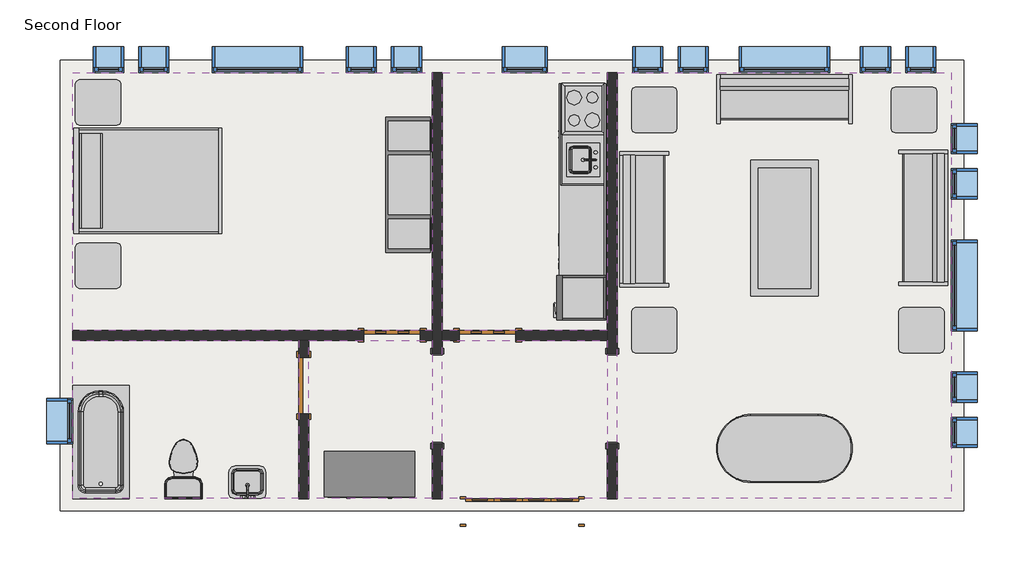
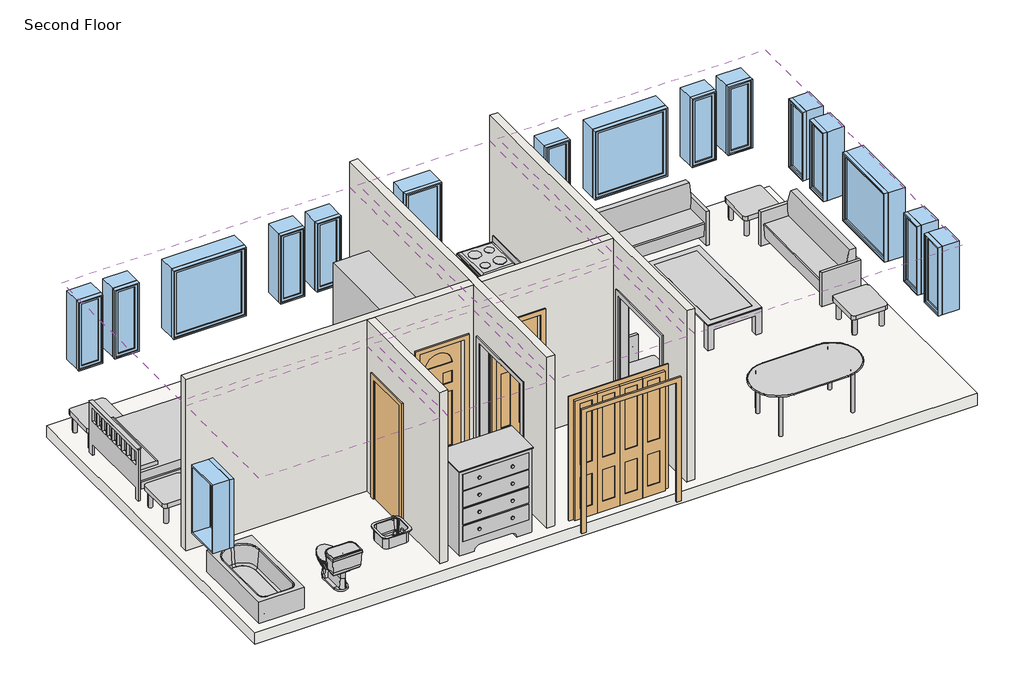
# One storey, incomplete: 17 windows, 15 furniture elements, 6 coverings, 6 proxies, 4 doors, 4 flow terminals, 4 walls, 1 slab.
"""IFC4 building model written with IfcOpenShell, lengths in millimetres."""

from ifc_helpers import new_model, si_unit, frame, origin, place, context, project, spatial, polyline, outline, extrude, faceted_brep, transform, mapped, element, save
from components import m_cook_top_4_unit2_0615_x_500mm_249f3515, m_dishwasher_610_x_610_x_875mm_54ecfc4c, m_kitchenette_medium_1372mm_e05c6bec, m_passage_opening_cased_1220_x_2134mm_87a8d9c2, m_refrigerator_600_x_660mm_a466bf94, m_bifold_4_panel_1525_x_2134mm_1ddae71f, m_single_decorative_2_0762_x_2134mm_0d0af7cb, m_single_decorative_2_0762_x_2134mm_2fe67c8e, m_single_flush_0762_x_2134mm_0d89e411, m_sink_kitchen_island_450_x_450mm_f969cf2d, m_sink_vanity_square_500_x_440mm_1e229b74, m_toilet_domestic_3d_m_toilet_domestic_3d_5cb52bd4, m_toilet_domestic_3d_m_toilet_domestic_3d_183bbd19, m_tub_rectangular_3d_m_tub_rectangular_3d_3a981ad5, m_bed_shaker_1422_x_1981mm_double_096e7f55, m_counter_top_w_sink_hole_600mm_depth_1fb56bb9, m_dresser_1220_x_1525_x_0610mm_18e1f140, m_entertainment_center_1830_x_1830_x_0610mm_f77a9b93, m_sofa_1830mm_f9e8a66b, m_table_coffee_0915_x_1830_x_0457mm_134cd960, m_table_dining_oval_0915_x_1830mm_a7cfbe21, m_table_end_cb6ea12e, m_fixed_0406_x_1220mm_57fee329, m_fixed_0406_x_1220mm_85c28f40, m_fixed_0610_x_1220mm_2c28ef1d, m_fixed_1220_x_1220mm_e08ff7af

model = new_model("IFC4")

# Units and contexts
model_context = context("Model", 3, world=origin())
ifc_project = project(units=[si_unit("LENGTHUNIT", "METRE", prefix="MILLI")], contexts=[model_context])

# Site, building, storey
site = spatial("IfcSite", under=ifc_project)
building = spatial("IfcBuilding", under=site)
storey = spatial("IfcBuildingStorey", under=building, Name="Second Floor", Elevation=3048.0)

# Proxies
placement = place(None, origin())
m_cook_top_4_unit2_0615_x_500mm_shape = m_cook_top_4_unit2_0615_x_500mm_249f3515(model_context)
element("IfcBuildingElementProxy", 1, Name="M_Cook Top-4 Unit2 : 0615 x 500mm", ObjectType="M_Cook Top-4 Unit2 : 0615 x 500mm", at=placement, inside=storey, context=model_context, shape_type="MappedRepresentation", body=[
    mapped(m_cook_top_4_unit2_0615_x_500mm_shape, transform((-8054.9916203, 1914.054661, 3048.0), x_axis=(0.0, -1.0, 0.0), y_axis=(1.0, 0.0, 0.0), z_axis=(0.0, 0.0, 1.0))),
])
m_dishwasher_610_x_610_x_875mm_shape = m_dishwasher_610_x_610_x_875mm_54ecfc4c(model_context)
element("IfcBuildingElementProxy", 2, Name="M_Dishwasher : 610 x 610 x 875mm", ObjectType="M_Dishwasher : 610 x 610 x 875mm", at=placement, inside=storey, context=model_context, shape_type="MappedRepresentation", body=[
    mapped(m_dishwasher_610_x_610_x_875mm_shape, transform((-8321.6411851, 353.5721295, 3048.0), x_axis=(0.0, -1.0, 0.0), y_axis=(1.0, 0.0, 0.0), z_axis=(0.0, 0.0, 1.0))),
])
m_kitchenette_medium_1372mm_shape = m_kitchenette_medium_1372mm_e05c6bec(model_context)
element("IfcBuildingElementProxy", 3, Name="M_Kitchenette - Medium : 1372mm", ObjectType="M_Kitchenette - Medium : 1372mm", at=placement, inside=storey, context=model_context, shape_type="MappedRepresentation", body=[
    mapped(m_kitchenette_medium_1372mm_shape, transform((-7749.9916203, 1589.7923659, 3048.0), x_axis=(0.0, -1.0, 0.0), y_axis=(1.0, 0.0, 0.0), z_axis=(0.0, 0.0, 1.0))),
])
m_passage_opening_cased_1220_x_2134mm_shape = m_passage_opening_cased_1220_x_2134mm_87a8d9c2(model_context)
element("IfcBuildingElementProxy", 4, Name="M_Passage Opening-Cased : 1220 x 2134mm", ObjectType="M_Passage Opening-Cased : 1220 x 2134mm", at=placement, inside=storey, context=model_context, shape_type="MappedRepresentation", body=[
    mapped(m_passage_opening_cased_1220_x_2134mm_shape, transform((-7665.3416203, -1982.6925047, 3048.0), x_axis=(0.0, 1.0, 0.0), y_axis=(-1.0, 0.0, 0.0), z_axis=(0.0, 0.0, 1.0))),
])
element("IfcBuildingElementProxy", 5, Name="M_Passage Opening-Cased : 1220 x 2134mm", ObjectType="M_Passage Opening-Cased : 1220 x 2134mm", at=placement, inside=storey, context=model_context, shape_type="MappedRepresentation", body=[
    mapped(m_passage_opening_cased_1220_x_2134mm_shape, transform((-10019.0916203, -1999.0698181, 3048.0), x_axis=(0.0, -1.0, 0.0), y_axis=(1.0, 0.0, 0.0), z_axis=(0.0, 0.0, 1.0))),
])
m_refrigerator_600_x_660mm_shape = m_refrigerator_600_x_660mm_a466bf94(model_context)
element("IfcBuildingElementProxy", 6, Name="M_Refrigerator : 600 x 660mm", ObjectType="M_Refrigerator : 600 x 660mm", at=placement, inside=storey, context=model_context, shape_type="MappedRepresentation", body=[
    mapped(m_refrigerator_600_x_660mm_shape, transform((-8046.2067105, -687.7464817, 3048.0), x_axis=(0.0, -1.0, 0.0), y_axis=(1.0, 0.0, 0.0), z_axis=(0.0, 0.0, 1.0))),
])

# Coverings
element("IfcCovering", 7, ObjectType="Plain", at=placement, inside=storey, context=model_context, shape_type="SweptSolid", body=[
    extrude(outline(polyline([(-14935.3416203, 2406.1188386), (-10086.8416203, 2406.1188386), (-10086.8416203, -1070.3811614), (-14935.3416203, -1070.3811614), (-14935.3416203, 2406.1188386)])), frame((0.0, 0.0, 5638.0), z_axis=(0.0, 0.0, 1.0), x_axis=(1.0, 0.0, 0.0)), (0.0, 0.0, 1.0), 57.0),
])
element("IfcCovering", 8, ObjectType="Plain", at=placement, inside=storey, context=model_context, shape_type="SweptSolid", body=[
    extrude(outline(polyline([(-9951.3416203, -1070.3811614), (-9951.3416203, 2406.1188386), (-7733.0916203, 2406.1188386), (-7733.0916203, -1070.3811614), (-9951.3416203, -1070.3811614)])), frame((0.0, 0.0, 5638.0), z_axis=(0.0, 0.0, 1.0), x_axis=(1.0, 0.0, 0.0)), (0.0, 0.0, 1.0), 57.0),
])
element("IfcCovering", 9, ObjectType="Plain", at=placement, inside=storey, context=model_context, shape_type="SweptSolid", body=[
    extrude(outline(polyline([(-7597.5916203, -3339.8811614), (-7597.5916203, 2406.1188386), (-3093.3416203, 2406.1188386), (-3093.3416203, -3339.8811614), (-7597.5916203, -3339.8811614)])), frame((0.0, 0.0, 5638.0), z_axis=(0.0, 0.0, 1.0), x_axis=(1.0, 0.0, 0.0)), (0.0, 0.0, 1.0), 57.0),
])
element("IfcCovering", 10, ObjectType="Plain", at=placement, inside=storey, context=model_context, shape_type="SweptSolid", body=[
    extrude(outline(polyline([(-7733.0916203, -3339.8811614), (-9951.3416203, -3339.8811614), (-9951.3416203, -1205.8811614), (-7733.0916203, -1205.8811614), (-7733.0916203, -3339.8811614)])), frame((0.0, 0.0, 5638.0), z_axis=(0.0, 0.0, 1.0), x_axis=(1.0, 0.0, 0.0)), (0.0, 0.0, 1.0), 57.0),
])
element("IfcCovering", 11, ObjectType="Plain", at=placement, inside=storey, context=model_context, shape_type="SweptSolid", body=[
    extrude(outline(polyline([(-11887.3416203, -1205.8811614), (-11887.3416203, -3339.8811614), (-14935.3416203, -3339.8811614), (-14935.3416203, -1205.8811614), (-11887.3416203, -1205.8811614)])), frame((0.0, 0.0, 5638.0), z_axis=(0.0, 0.0, 1.0), x_axis=(1.0, 0.0, 0.0)), (0.0, 0.0, 1.0), 57.0),
])
element("IfcCovering", 12, ObjectType="Plain", at=placement, inside=storey, context=model_context, shape_type="SweptSolid", body=[
    extrude(outline(polyline([(-10086.8416203, -3339.8811614), (-11751.8416203, -3339.8811614), (-11751.8416203, -1205.8811614), (-10086.8416203, -1205.8811614), (-10086.8416203, -3339.8811614)])), frame((0.0, 0.0, 5638.0), z_axis=(0.0, 0.0, 1.0), x_axis=(1.0, 0.0, 0.0)), (0.0, 0.0, 1.0), 57.0),
])

# Doors
m_bifold_4_panel_1525_x_2134mm_shape = m_bifold_4_panel_1525_x_2134mm_1ddae71f(model_context)
element("IfcDoor", 13, ObjectType="M_Bifold-4 Panel : 1525 x 2134mm", at=placement, inside=storey, context=model_context, shape_type="MappedRepresentation", body=[
    mapped(m_bifold_4_panel_1525_x_2134mm_shape, transform((-8876.0916203, -3514.8811614, 3048.0), x_axis=(1.0, 0.0, 0.0), y_axis=(0.0, 1.0, 0.0), z_axis=(0.0, 0.0, 1.0))),
])
m_single_decorative_2_0762_x_2134mm_shape = m_single_decorative_2_0762_x_2134mm_0d0af7cb(model_context)
element("IfcDoor", 14, ObjectType="M_Single-Decorative 2 : 0762 x 2134mm", at=placement, inside=storey, context=model_context, shape_type="MappedRepresentation", body=[
    mapped(m_single_decorative_2_0762_x_2134mm_shape, transform((-9342.3416203, -1138.1311614, 3048.0), x_axis=(-1.0, 0.0, 0.0), y_axis=(0.0, -1.0, 0.0), z_axis=(0.0, 0.0, 1.0))),
])
m_single_decorative_2_0762_x_2134mm_2_shape = m_single_decorative_2_0762_x_2134mm_2fe67c8e(model_context)
element("IfcDoor", 15, ObjectType="M_Single-Decorative 2 : 0762 x 2134mm", at=placement, inside=storey, context=model_context, shape_type="MappedRepresentation", body=[
    mapped(m_single_decorative_2_0762_x_2134mm_2_shape, transform((-10629.0916203, -1138.1311614, 3048.0), x_axis=(1.0, 0.0, 0.0), y_axis=(0.0, 1.0, 0.0), z_axis=(0.0, 0.0, 1.0))),
])
m_single_flush_0762_x_2134mm_shape = m_single_flush_0762_x_2134mm_0d89e411(model_context)
element("IfcDoor", 16, ObjectType="M_Single-Flush : 0762 x 2134mm", at=placement, inside=storey, context=model_context, shape_type="MappedRepresentation", body=[
    mapped(m_single_flush_0762_x_2134mm_shape, transform((-11819.5916203, -1815.8811614, 3048.0), x_axis=(0.0, 1.0, 0.0), y_axis=(-1.0, 0.0, 0.0), z_axis=(0.0, 0.0, 1.0))),
])

# Flow terminals
m_sink_kitchen_island_450_x_450mm_shape = m_sink_kitchen_island_450_x_450mm_f969cf2d(model_context)
element("IfcFlowTerminal", 17, ObjectType="M_Sink Kitchen-Island : 450 x 450mm", at=placement, inside=storey, context=model_context, shape_type="MappedRepresentation", body=[
    mapped(m_sink_kitchen_island_450_x_450mm_shape, transform((-8057.3370214, 1243.7439015, 3048.0), x_axis=(0.0, -1.0, 0.0), y_axis=(1.0, 0.0, 0.0), z_axis=(0.0, 0.0, 1.0))),
])
m_sink_vanity_square_500_x_440mm_shape = m_sink_vanity_square_500_x_440mm_1e229b74(model_context)
element("IfcFlowTerminal", 18, ObjectType="M_Sink Vanity-Square : 500 x 440mm", at=placement, inside=storey, context=model_context, shape_type="MappedRepresentation", body=[
    mapped(m_sink_vanity_square_500_x_440mm_shape, transform((-12563.5523798, -3158.1107603, 3048.0), x_axis=(-1.0, 0.0, 0.0), y_axis=(0.0, -1.0, 0.0), z_axis=(0.0, 0.0, 1.0))),
])
m_toilet_domestic_3d_m_toilet_domestic_3d_shape = m_toilet_domestic_3d_m_toilet_domestic_3d_5cb52bd4(model_context)
m_toilet_domestic_3d_m_toilet_domestic_3d_2_shape = m_toilet_domestic_3d_m_toilet_domestic_3d_183bbd19(model_context)
element("IfcFlowTerminal", 19, ObjectType="M_Toilet-Domestic-3D : M_Toilet-Domestic-3D", at=placement, inside=storey, context=model_context, shape_type="MappedRepresentation", body=[
    mapped(m_toilet_domestic_3d_m_toilet_domestic_3d_shape, transform((-13440.7376477, -2845.185134, 3048.0), x_axis=(-1.0000000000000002, 0.0, 0.0), y_axis=(0.0, -1.0000000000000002, 0.0), z_axis=(0.0, 0.0, 1.0))),
    mapped(m_toilet_domestic_3d_m_toilet_domestic_3d_2_shape, transform((-13440.7376477, -2845.185134, 3048.0), x_axis=(-1.0000000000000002, 0.0, 0.0), y_axis=(0.0, -1.0000000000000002, 0.0), z_axis=(0.0, 0.0, 1.0))),
])
m_tub_rectangular_3d_m_tub_rectangular_3d_shape = m_tub_rectangular_3d_m_tub_rectangular_3d_3a981ad5(model_context)
element("IfcFlowTerminal", 20, ObjectType="M_Tub-Rectangular-3D : M_Tub-Rectangular-3D", at=placement, inside=storey, context=model_context, shape_type="MappedRepresentation", body=[
    mapped(m_tub_rectangular_3d_m_tub_rectangular_3d_shape, transform((-15110.3416203, -2229.2781927, 3048.0), x_axis=(0.0, 1.0, 0.0), y_axis=(-1.0, 0.0, 0.0), z_axis=(0.0, 0.0, 1.0))),
])

# Furniture
m_bed_shaker_1422_x_1981mm_double_shape = m_bed_shaker_1422_x_1981mm_double_096e7f55(model_context)
element("IfcFurniture", 21, ObjectType="M_Bed-Shaker : 1422 x 1981mm - Double", at=placement, inside=storey, context=model_context, shape_type="MappedRepresentation", body=[
    mapped(m_bed_shaker_1422_x_1981mm_double_shape, transform((-14905.3416203, 963.9688386, 3048.0), x_axis=(0.0, 1.0000000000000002, 0.0), y_axis=(-1.0000000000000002, 0.0, 0.0), z_axis=(0.0, 0.0, 1.0))),
])
m_counter_top_w_sink_hole_600mm_depth_shape = m_counter_top_w_sink_hole_600mm_depth_1fb56bb9(model_context)
element("IfcFurniture", 22, ObjectType="M_Counter Top w Sink Hole : 600mm Depth", at=placement, inside=storey, context=model_context, shape_type="MappedRepresentation", body=[
    mapped(m_counter_top_w_sink_hole_600mm_depth_shape, transform((-7749.9916203, 1056.5923659, 3048.0), x_axis=(0.0, -1.0, 0.0), y_axis=(1.0, 0.0, 0.0), z_axis=(0.0, 0.0, 1.0))),
])
m_dresser_1220_x_1525_x_0610mm_shape = m_dresser_1220_x_1525_x_0610mm_18e1f140(model_context)
element("IfcFurniture", 23, ObjectType="M_Dresser : 1220 x 1525 x 0610mm", at=placement, inside=storey, context=model_context, shape_type="MappedRepresentation", body=[
    mapped(m_dresser_1220_x_1525_x_0610mm_shape, transform((-10667.6483605, -2647.7182073, 3048.0), x_axis=(1.0, 0.0, 0.0), y_axis=(0.0, 1.0, 0.0), z_axis=(0.0, 0.0, 1.0))),
])
m_entertainment_center_1830_x_1830_x_0610mm_shape = m_entertainment_center_1830_x_1830_x_0610mm_f77a9b93(model_context)
element("IfcFurniture", 24, ObjectType="M_Entertainment center : 1830 x 1830 x 0610mm", at=placement, inside=storey, context=model_context, shape_type="MappedRepresentation", body=[
    mapped(m_entertainment_center_1830_x_1830_x_0610mm_shape, transform((-10818.2416203, 891.1188386, 3048.0), x_axis=(0.0, 1.0, 0.0), y_axis=(-1.0, 0.0, 0.0), z_axis=(0.0, 0.0, 1.0))),
])
m_sofa_1830mm_shape = m_sofa_1830mm_f9e8a66b(model_context)
element("IfcFurniture", 25, ObjectType="M_Sofa : 1830mm", at=placement, inside=storey, context=model_context, shape_type="MappedRepresentation", body=[
    mapped(m_sofa_1830mm_shape, transform((-5413.7121121, 1899.9647403, 3048.0), x_axis=(1.0, 0.0, 0.0), y_axis=(0.0, 1.0, 0.0), z_axis=(0.0, 0.0, 1.0))),
])
element("IfcFurniture", 26, ObjectType="M_Sofa : 1830mm", at=placement, inside=storey, context=model_context, shape_type="MappedRepresentation", body=[
    mapped(m_sofa_1830mm_shape, transform((-3617.1736471, 517.2688343, 3048.0), x_axis=(0.0, -1.0, 0.0), y_axis=(1.0, 0.0, 0.0), z_axis=(0.0, 0.0, 1.0))),
])
element("IfcFurniture", 27, ObjectType="M_Sofa : 1830mm", at=placement, inside=storey, context=model_context, shape_type="MappedRepresentation", body=[
    mapped(m_sofa_1830mm_shape, transform((-7088.437522, 355.7483468, 3048.0), x_axis=(0.0, 1.0, 0.0), y_axis=(-1.0, 0.0, 0.0), z_axis=(0.0, 0.0, 1.0))),
])
m_table_coffee_0915_x_1830_x_0457mm_shape = m_table_coffee_0915_x_1830_x_0457mm_134cd960(model_context)
element("IfcFurniture", 28, ObjectType="M_Table-Coffee : 0915 x 1830 x 0457mm", at=placement, inside=storey, context=model_context, shape_type="MappedRepresentation", body=[
    mapped(m_table_coffee_0915_x_1830_x_0457mm_shape, transform((-5248.1305425, 287.8530719, 3048.0), x_axis=(0.0, 1.0, 0.0), y_axis=(-1.0, 0.0, 0.0), z_axis=(0.0, 0.0, 1.0))),
])
m_table_dining_oval_0915_x_1830mm_shape = m_table_dining_oval_0915_x_1830mm_a7cfbe21(model_context)
element("IfcFurniture", 29, ObjectType="M_Table-Dining Oval : 0915 x 1830mm", at=placement, inside=storey, context=model_context, shape_type="MappedRepresentation", body=[
    mapped(m_table_dining_oval_0915_x_1830mm_shape, transform((-4941.5219482, -2305.2828007, 3048.0), x_axis=(1.0, 0.0, 0.0), y_axis=(0.0, 1.0, 0.0), z_axis=(0.0, 0.0, 1.0))),
])
m_table_end_shape = m_table_end_cb6ea12e(model_context)
element("IfcFurniture", 30, ObjectType="M_Table-End : 0610 x 0160mm altered height", at=placement, inside=storey, context=model_context, shape_type="MappedRepresentation", body=[
    mapped(m_table_end_shape, transform((-7407.0752506, 1748.7188386, 3048.0), x_axis=(1.0, 0.0, 0.0), y_axis=(0.0, 1.0, 0.0), z_axis=(0.0, 0.0, 1.0))),
])
element("IfcFurniture", 31, ObjectType="M_Table-End : 0610 x 0160mm altered height", at=placement, inside=storey, context=model_context, shape_type="MappedRepresentation", body=[
    mapped(m_table_end_shape, transform((-3907.0752506, 1748.7188386, 3048.0), x_axis=(1.0, 0.0, 0.0), y_axis=(0.0, 1.0, 0.0), z_axis=(0.0, 0.0, 1.0))),
])
element("IfcFurniture", 32, ObjectType="M_Table-End : 0610 x 0160mm altered height", at=placement, inside=storey, context=model_context, shape_type="MappedRepresentation", body=[
    mapped(m_table_end_shape, transform((-3807.0752506, -1222.7811614, 3048.0), x_axis=(1.0, 0.0, 0.0), y_axis=(0.0, 1.0, 0.0), z_axis=(0.0, 0.0, 1.0))),
])
element("IfcFurniture", 33, ObjectType="M_Table-End : 0610 x 0160mm altered height", at=placement, inside=storey, context=model_context, shape_type="MappedRepresentation", body=[
    mapped(m_table_end_shape, transform((-7407.0752506, -1222.7811614, 3048.0), x_axis=(1.0, 0.0, 0.0), y_axis=(0.0, 1.0, 0.0), z_axis=(0.0, 0.0, 1.0))),
])
element("IfcFurniture", 34, ObjectType="M_Table-End : 0610 x 0160mm altered height", at=placement, inside=storey, context=model_context, shape_type="MappedRepresentation", body=[
    mapped(m_table_end_shape, transform((-14899.0752506, -351.2811614, 3048.0), x_axis=(1.0, 0.0, 0.0), y_axis=(0.0, 1.0, 0.0), z_axis=(0.0, 0.0, 1.0))),
])
element("IfcFurniture", 35, ObjectType="M_Table-End : 0610 x 0160mm altered height", at=placement, inside=storey, context=model_context, shape_type="MappedRepresentation", body=[
    mapped(m_table_end_shape, transform((-14899.0752506, 1848.7188386, 3048.0), x_axis=(1.0, 0.0, 0.0), y_axis=(0.0, 1.0, 0.0), z_axis=(0.0, 0.0, 1.0))),
])

# Slab
element("IfcSlab", 36, ObjectType="160mm Concrete With 50mm Metal Deck", at=placement, inside=storey, context=model_context, shape_type="SweptSolid", body=[
    extrude(outline(polyline([(-2928.3416203, 2571.1188386), (-2928.3416203, -3504.8811614), (-15100.3416203, -3504.8811614), (-15100.3416203, 2571.1188386), (-2928.3416203, 2571.1188386)])), frame((0.0, 0.0, 2838.0), z_axis=(0.0, 0.0, 1.0), x_axis=(1.0, 0.0, 0.0)), (0.0, 0.0, 1.0), 210.0),
])

# Walls
element("IfcWall", 37, ObjectType="Interior - 135mm Partition (2-hr)", at=placement, inside=storey, context=model_context, shape_type="Brep", body=[
    faceted_brep([(-7733.0916203, 2406.1188386, 3048.0), (-7733.0916203, -1070.3811614, 3048.0), (-7733.0916203, -1205.8811614, 3048.0), (-7733.0916203, -1380.8811614, 3048.0), (-7733.0916203, -1380.8811614, 5182.0), (-7733.0916203, -2600.8811614, 5182.0), (-7733.0916203, -2600.8811614, 3048.0), (-7733.0916203, -3339.8811614, 3048.0), (-7733.0916203, -3339.8811614, 6096.0), (-7733.0916203, -1205.8811614, 6096.0), (-7733.0916203, -1070.3811614, 6096.0), (-7733.0916203, 2406.1188386, 6096.0), (-7597.5916203, -1380.8811614, 5182.0), (-7597.5916203, -1380.8811614, 3048.0), (-7597.5916203, 2406.1188386, 3048.0), (-7597.5916203, 2406.1188386, 6096.0), (-7597.5916203, -3339.8811614, 6096.0), (-7597.5916203, -3339.8811614, 3048.0), (-7597.5916203, -2600.8811614, 3048.0), (-7597.5916203, -2600.8811614, 5182.0)], [[[0, 1, 2, 3, 4, 5, 6, 7, 8, 9, 10, 11]], [[12, 13, 14, 15, 16, 17, 18, 19]], [[18, 17, 7, 6]], [[14, 13, 3, 2, 1, 0]], [[11, 10, 9, 8, 16, 15]], [[6, 5, 19, 18]], [[4, 3, 13, 12]], [[5, 4, 12, 19]], [[0, 11, 15, 14]], [[8, 7, 17, 16]]]),
])
element("IfcWall", 38, ObjectType="Interior - 135mm Partition (2-hr)", at=placement, inside=storey, context=model_context, shape_type="Brep", body=[
    faceted_brep([(-10086.8416203, -2600.8811614, 5182.0), (-10086.8416203, -2600.8811614, 3048.0), (-10086.8416203, -3339.8811614, 3048.0), (-10086.8416203, -3339.8811614, 6096.0), (-10086.8416203, -1205.8811614, 6096.0), (-10086.8416203, -1070.3811614, 6096.0), (-10086.8416203, 2406.1188386, 6096.0), (-10086.8416203, 2406.1188386, 3048.0), (-10086.8416203, -1070.3811614, 3048.0), (-10086.8416203, -1205.8811614, 3048.0), (-10086.8416203, -1380.8811614, 3048.0), (-10086.8416203, -1380.8811614, 5182.0), (-9951.3416203, -3339.8811614, 3048.0), (-9951.3416203, -2600.8811614, 3048.0), (-9951.3416203, -2600.8811614, 5182.0), (-9951.3416203, -1380.8811614, 5182.0), (-9951.3416203, -1380.8811614, 3048.0), (-9951.3416203, -1205.8811614, 3048.0), (-9951.3416203, -1070.3811614, 3048.0), (-9951.3416203, 2406.1188386, 3048.0), (-9951.3416203, 2406.1188386, 6096.0), (-9951.3416203, -1070.3811614, 6096.0), (-9951.3416203, -1205.8811614, 6096.0), (-9951.3416203, -3339.8811614, 6096.0)], [[[0, 1, 2, 3, 4, 5, 6, 7, 8, 9, 10, 11]], [[12, 13, 14, 15, 16, 17, 18, 19, 20, 21, 22, 23]], [[2, 1, 13, 12]], [[10, 9, 8, 7, 19, 18, 17, 16]], [[6, 5, 4, 3, 23, 22, 21, 20]], [[16, 15, 11, 10]], [[14, 13, 1, 0]], [[15, 14, 0, 11]], [[7, 6, 20, 19]], [[3, 2, 12, 23]]]),
])
element("IfcWall", 39, ObjectType="Interior - 135mm Partition (2-hr)", at=placement, inside=storey, context=model_context, shape_type="Brep", body=[
    faceted_brep([(-7733.0916203, -1205.8811614, 3048.0), (-7733.0916203, -1205.8811614, 6096.0), (-9951.3416203, -1205.8811614, 6096.0), (-9951.3416203, -1205.8811614, 3048.0), (-9723.3416203, -1205.8811614, 3048.0), (-9723.3416203, -1205.8811614, 5182.0), (-8961.3416203, -1205.8811614, 5182.0), (-8961.3416203, -1205.8811614, 3048.0), (-7733.0916203, -1070.3811614, 6096.0), (-7733.0916203, -1070.3811614, 3048.0), (-8961.3416203, -1070.3811614, 3048.0), (-8961.3416203, -1070.3811614, 5182.0), (-9723.3416203, -1070.3811614, 5182.0), (-9723.3416203, -1070.3811614, 3048.0), (-9951.3416203, -1070.3811614, 3048.0), (-9951.3416203, -1070.3811614, 6096.0)], [[[0, 1, 2, 3, 4, 5, 6, 7]], [[8, 9, 10, 11, 12, 13, 14, 15]], [[9, 0, 7, 10]], [[13, 4, 3, 14]], [[1, 8, 15, 2]], [[1, 0, 9, 8]], [[3, 2, 15, 14]], [[5, 4, 13, 12]], [[6, 5, 12, 11]], [[7, 6, 11, 10]]]),
    faceted_brep([(-10248.0916203, -1205.8811614, 5182.0), (-10248.0916203, -1205.8811614, 3048.0), (-10086.8416203, -1205.8811614, 3048.0), (-10086.8416203, -1205.8811614, 6096.0), (-11751.8416203, -1205.8811614, 6096.0), (-11887.3416203, -1205.8811614, 6096.0), (-14935.3416203, -1205.8811614, 6096.0), (-14935.3416203, -1205.8811614, 3048.0), (-11887.3416203, -1205.8811614, 3048.0), (-11751.8416203, -1205.8811614, 3048.0), (-11010.0916203, -1205.8811614, 3048.0), (-11010.0916203, -1205.8811614, 5182.0), (-10248.0916203, -1070.3811614, 3048.0), (-10248.0916203, -1070.3811614, 5182.0), (-11010.0916203, -1070.3811614, 5182.0), (-11010.0916203, -1070.3811614, 3048.0), (-14935.3416203, -1070.3811614, 3048.0), (-14935.3416203, -1070.3811614, 6096.0), (-10086.8416203, -1070.3811614, 6096.0), (-10086.8416203, -1070.3811614, 3048.0)], [[[0, 1, 2, 3, 4, 5, 6, 7, 8, 9, 10, 11]], [[12, 13, 14, 15, 16, 17, 18, 19]], [[1, 12, 19, 2]], [[15, 10, 9, 8, 7, 16]], [[17, 6, 5, 4, 3, 18]], [[3, 2, 19, 18]], [[13, 12, 1, 0]], [[14, 13, 0, 11]], [[15, 14, 11, 10]], [[7, 6, 17, 16]]]),
])
element("IfcWall", 40, ObjectType="Interior - 135mm Partition (2-hr)", at=placement, inside=storey, context=model_context, shape_type="SweptSolid", body=[
    extrude(outline(polyline([(-1205.8811614, 3048.0), (-1434.8811614, 3048.0), (-1434.8811614, 5182.0), (-2196.8811614, 5182.0), (-2196.8811614, 3048.0), (-3339.8811614, 3048.0), (-3339.8811614, 6096.0), (-1205.8811614, 6096.0), (-1205.8811614, 3048.0)])), frame((-11887.3416203, 0.0, 0.0), z_axis=(1.0, 0.0, 0.0), x_axis=(0.0, 1.0, 0.0)), (0.0, 0.0, 1.0), 135.5),
])

# Windows
m_fixed_0406_x_1220mm_shape = m_fixed_0406_x_1220mm_57fee329(model_context)
element("IfcWindow", 41, ObjectType="M_Fixed : 0406 x 1220mm", at=placement, inside=storey, context=model_context, shape_type="MappedRepresentation", body=[
    mapped(m_fixed_0406_x_1220mm_shape, transform((-14450.3416203, 2594.1188386, 3048.0), x_axis=(-1.0, 0.0, 0.0), y_axis=(0.0, -1.0, 0.0), z_axis=(0.0, 0.0, 1.0))),
])
element("IfcWindow", 42, ObjectType="M_Fixed : 0406 x 1220mm", at=placement, inside=storey, context=model_context, shape_type="MappedRepresentation", body=[
    mapped(m_fixed_0406_x_1220mm_shape, transform((-13840.3416203, 2594.1188386, 3048.0), x_axis=(-1.0, 0.0, 0.0), y_axis=(0.0, -1.0, 0.0), z_axis=(0.0, 0.0, 1.0))),
])
element("IfcWindow", 43, ObjectType="M_Fixed : 0406 x 1220mm", at=placement, inside=storey, context=model_context, shape_type="MappedRepresentation", body=[
    mapped(m_fixed_0406_x_1220mm_shape, transform((-7183.3416203, 2594.1188386, 3048.0), x_axis=(-1.0, 0.0, 0.0), y_axis=(0.0, -1.0, 0.0), z_axis=(0.0, 0.0, 1.0))),
])
element("IfcWindow", 44, ObjectType="M_Fixed : 0406 x 1220mm", at=placement, inside=storey, context=model_context, shape_type="MappedRepresentation", body=[
    mapped(m_fixed_0406_x_1220mm_shape, transform((-6573.3416203, 2594.1188386, 3048.0), x_axis=(-1.0, 0.0, 0.0), y_axis=(0.0, -1.0, 0.0), z_axis=(0.0, 0.0, 1.0))),
])
element("IfcWindow", 45, ObjectType="M_Fixed : 0406 x 1220mm", at=placement, inside=storey, context=model_context, shape_type="MappedRepresentation", body=[
    mapped(m_fixed_0406_x_1220mm_shape, transform((-2905.3416203, 1514.1188386, 3048.0), x_axis=(0.0, 1.0, 0.0), y_axis=(-1.0, 0.0, 0.0), z_axis=(0.0, 0.0, 1.0))),
])
element("IfcWindow", 46, ObjectType="M_Fixed : 0406 x 1220mm", at=placement, inside=storey, context=model_context, shape_type="MappedRepresentation", body=[
    mapped(m_fixed_0406_x_1220mm_shape, transform((-2905.3416203, 904.1188386, 3048.0), x_axis=(0.0, 1.0, 0.0), y_axis=(-1.0, 0.0, 0.0), z_axis=(0.0, 0.0, 1.0))),
])
m_fixed_0406_x_1220mm_2_shape = m_fixed_0406_x_1220mm_85c28f40(model_context)
element("IfcWindow", 47, ObjectType="M_Fixed : 0406 x 1220mm", at=placement, inside=storey, context=model_context, shape_type="MappedRepresentation", body=[
    mapped(m_fixed_0406_x_1220mm_2_shape, transform((-10436.3416203, 2594.1188386, 3048.0), x_axis=(1.0, 0.0, 0.0), y_axis=(0.0, 1.0, 0.0), z_axis=(0.0, 0.0, 1.0))),
])
element("IfcWindow", 48, ObjectType="M_Fixed : 0406 x 1220mm", at=placement, inside=storey, context=model_context, shape_type="MappedRepresentation", body=[
    mapped(m_fixed_0406_x_1220mm_2_shape, transform((-11046.3416203, 2594.1188386, 3048.0), x_axis=(1.0, 0.0, 0.0), y_axis=(0.0, 1.0, 0.0), z_axis=(0.0, 0.0, 1.0))),
])
element("IfcWindow", 49, ObjectType="M_Fixed : 0406 x 1220mm", at=placement, inside=storey, context=model_context, shape_type="MappedRepresentation", body=[
    mapped(m_fixed_0406_x_1220mm_2_shape, transform((-3507.5916203, 2594.1188386, 3048.0), x_axis=(1.0, 0.0, 0.0), y_axis=(0.0, 1.0, 0.0), z_axis=(0.0, 0.0, 1.0))),
])
element("IfcWindow", 50, ObjectType="M_Fixed : 0406 x 1220mm", at=placement, inside=storey, context=model_context, shape_type="MappedRepresentation", body=[
    mapped(m_fixed_0406_x_1220mm_2_shape, transform((-4117.5916203, 2594.1188386, 3048.0), x_axis=(1.0, 0.0, 0.0), y_axis=(0.0, 1.0, 0.0), z_axis=(0.0, 0.0, 1.0))),
])
element("IfcWindow", 51, ObjectType="M_Fixed : 0406 x 1220mm", at=placement, inside=storey, context=model_context, shape_type="MappedRepresentation", body=[
    mapped(m_fixed_0406_x_1220mm_2_shape, transform((-2905.3416203, -2447.8811614, 3048.0), x_axis=(0.0, -1.0, 0.0), y_axis=(1.0, 0.0, 0.0), z_axis=(0.0, 0.0, 1.0))),
])
element("IfcWindow", 52, ObjectType="M_Fixed : 0406 x 1220mm", at=placement, inside=storey, context=model_context, shape_type="MappedRepresentation", body=[
    mapped(m_fixed_0406_x_1220mm_2_shape, transform((-2905.3416203, -1837.8811614, 3048.0), x_axis=(0.0, -1.0, 0.0), y_axis=(1.0, 0.0, 0.0), z_axis=(0.0, 0.0, 1.0))),
])
m_fixed_0610_x_1220mm_shape = m_fixed_0610_x_1220mm_2c28ef1d(model_context)
element("IfcWindow", 53, ObjectType="M_Fixed : 0610 x 1220mm", at=placement, inside=storey, context=model_context, shape_type="MappedRepresentation", body=[
    mapped(m_fixed_0610_x_1220mm_shape, transform((-8842.1916203, 2594.1188386, 3048.0), x_axis=(-1.0, 0.0, 0.0), y_axis=(0.0, -1.0, 0.0), z_axis=(0.0, 0.0, 1.0))),
])
element("IfcWindow", 54, ObjectType="M_Fixed : 0610 x 1220mm", at=placement, inside=storey, context=model_context, shape_type="MappedRepresentation", body=[
    mapped(m_fixed_0610_x_1220mm_shape, transform((-15123.3416203, -2294.8811614, 3048.0), x_axis=(0.0, -1.0, 0.0), y_axis=(1.0, 0.0, 0.0), z_axis=(0.0, 0.0, 1.0))),
])
m_fixed_1220_x_1220mm_shape = m_fixed_1220_x_1220mm_e08ff7af(model_context)
element("IfcWindow", 55, ObjectType="M_Fixed : 1220 x 1220mm", at=placement, inside=storey, context=model_context, shape_type="MappedRepresentation", body=[
    mapped(m_fixed_1220_x_1220mm_shape, transform((-12443.3416203, 2594.1188386, 3048.0), x_axis=(-1.0, 0.0, 0.0), y_axis=(0.0, -1.0, 0.0), z_axis=(0.0, 0.0, 1.0))),
])
element("IfcWindow", 56, ObjectType="M_Fixed : 1220 x 1220mm", at=placement, inside=storey, context=model_context, shape_type="MappedRepresentation", body=[
    mapped(m_fixed_1220_x_1220mm_shape, transform((-5345.4666203, 2594.1188386, 3048.0), x_axis=(-1.0, 0.0, 0.0), y_axis=(0.0, -1.0, 0.0), z_axis=(0.0, 0.0, 1.0))),
])
element("IfcWindow", 57, ObjectType="M_Fixed : 1220 x 1220mm", at=placement, inside=storey, context=model_context, shape_type="MappedRepresentation", body=[
    mapped(m_fixed_1220_x_1220mm_shape, transform((-2905.3416203, -466.8811614, 3048.0), x_axis=(0.0, 1.0, 0.0), y_axis=(-1.0, 0.0, 0.0), z_axis=(0.0, 0.0, 1.0))),
])

save(model, "model.ifc")
